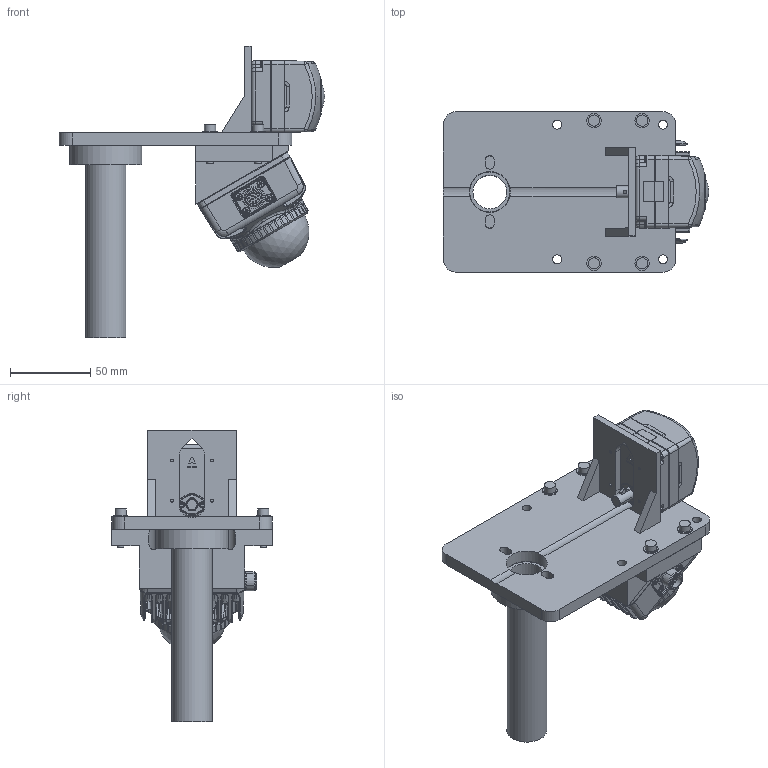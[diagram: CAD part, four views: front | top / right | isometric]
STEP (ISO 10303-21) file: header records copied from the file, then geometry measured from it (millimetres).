
FILE_DESCRIPTION(('FreeCAD Model'),'2;1');
FILE_NAME('Open CASCADE Shape Model','2026-11-20T13:18:52',('FreeCAD'),( 'FreeCAD'),'Open CASCADE STEP processor 7.8','FreeCAD','Unknown');
FILE_SCHEMA(('AUTOMOTIVE_DESIGN { 1 0 10303 214 1 1 1 1 }'));
Length unit declared in the file: millimetre
Products named in the file (1): Open CASCADE STEP translator 7.8 3
Bounding box: 165.5 x 100 x 182 mm (x, y, z)
Volume: 365119.7 mm3; surface area: 149644 mm2
Topology: 28 solids, 61 shells, 2522 faces, 6636 edges, 4267 vertices
Faces by surface type: plane 910, cylinder 794, bspline 334, cone 267, torus 173, extrusion 24, sphere 20
Full cylindrical faces by diameter (mm): 1.8 x4, 3 x4, 3.6 x4, 4 x8, 4.3 x4, 4.5 x8, 5.5 x4, 5.7 x4, 6.8 x4, 7 x4, 9 x4, 21 x1, 25 x2, 25.6 x1, 45 x1
Entity records: 115764 total; most frequent: CARTESIAN_POINT 55917, ORIENTED_EDGE 13073, DIRECTION 11592, EDGE_CURVE 6577, AXIS2_PLACEMENT_3D 4311, VERTEX_POINT 4267, VECTOR 2970, LINE 2946
